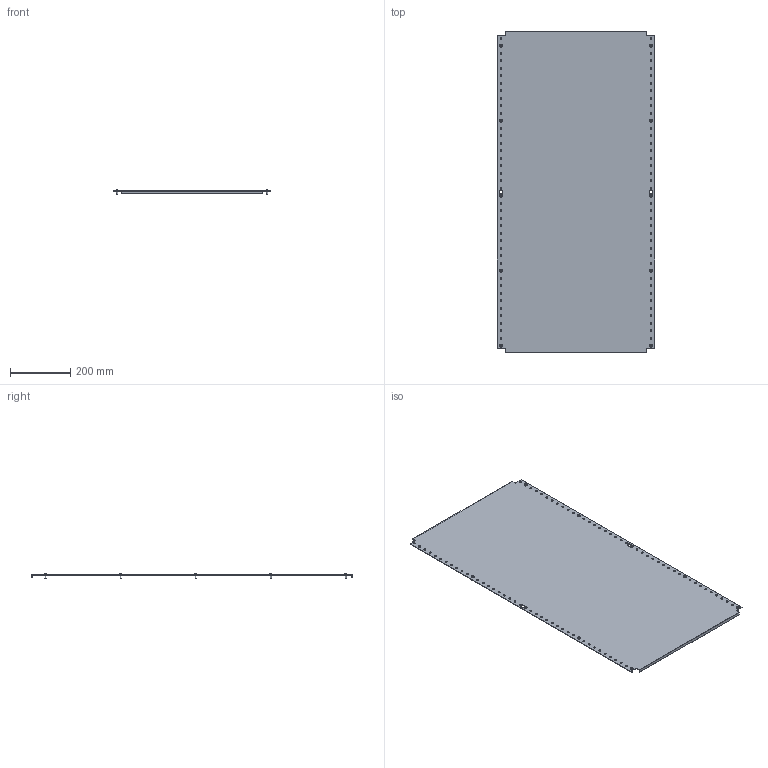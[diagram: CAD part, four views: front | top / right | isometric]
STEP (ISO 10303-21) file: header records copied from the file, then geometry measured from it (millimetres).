
FILE_DESCRIPTION (( 'STEP AP203' ), '1' );
FILE_NAME ('R6MP1260.STEP', '2025-03-28T12:06:22', ( '' ), ( '' ), 'SwSTEP 2.0', 'SolidWorks 2022', '' );
FILE_SCHEMA (( 'CONFIG_CONTROL_DESIGN' ));
Length unit declared in the file: millimetre
Products named in the file (3): R6MP1260; M5x12 DIN 7500 C Torx Zinc_stright; RB.3293.00.00.0_-07
Assembly tree (11 placements, depth 2):
  R6MP1260
    RB.3293.00.00.0_-07
    M5x12 DIN 7500 C Torx Zinc_stright  x10
Bounding box: 525 x 1070 x 15.56 mm (x, y, z)
Volume: 1020867.8 mm3; surface area: 1142875.3 mm2
Topology: 11 solids, 11 shells, 278 faces, 648 edges, 402 vertices
Faces by surface type: plane 110, cylinder 108, torus 20, cone 20, sphere 10, bspline 10
Full cylindrical faces by diameter (mm): 5 x10, 6.5 x84, 9.5 x10
Entity records: 5061 total; most frequent: CARTESIAN_POINT 882, DIRECTION 760, ORIENTED_EDGE 568, EDGE_LOOP 398, AXIS2_PLACEMENT_3D 336, EDGE_CURVE 284, VERTEX_POINT 246, FACE_OUTER_BOUND 224
